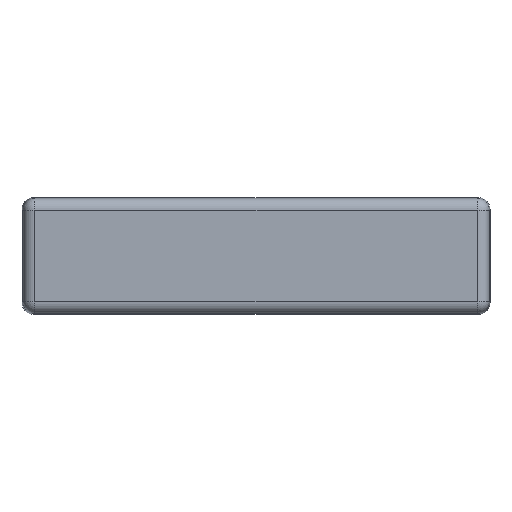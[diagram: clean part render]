
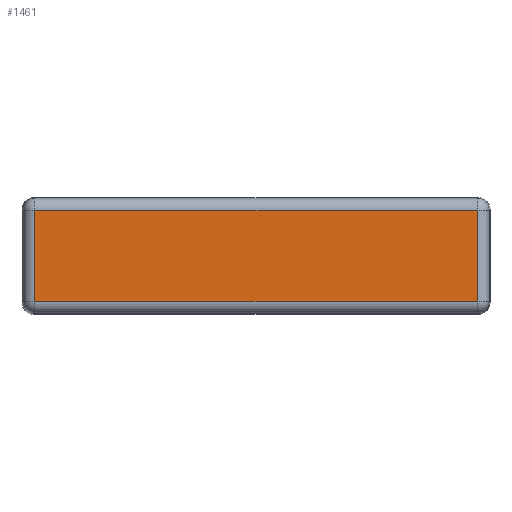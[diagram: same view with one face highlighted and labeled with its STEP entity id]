
A CAD part, top view. The second image highlights one B-rep face of the part: STEP entity #1461.
In plain terms, the highlighted planar face has unit normal (0, 0, 1).
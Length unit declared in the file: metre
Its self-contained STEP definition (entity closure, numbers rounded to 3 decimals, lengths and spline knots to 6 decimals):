
#353=FACE_OUTER_BOUND('',#480,.T.);
#480=EDGE_LOOP('',(#1096,#1097,#1098,#1099));
#670=LINE('',#2522,#732);
#671=LINE('',#2524,#733);
#672=LINE('',#2526,#734);
#673=LINE('',#2527,#735);
#732=VECTOR('',#1927,0.056754);
#733=VECTOR('',#1928,0.011754);
#734=VECTOR('',#1929,0.056754);
#735=VECTOR('',#1930,0.011754);
#798=VERTEX_POINT('',#2520);
#799=VERTEX_POINT('',#2521);
#800=VERTEX_POINT('',#2523);
#801=VERTEX_POINT('',#2525);
#924=EDGE_CURVE('',#798,#799,#670,.F.);
#925=EDGE_CURVE('',#799,#800,#671,.F.);
#926=EDGE_CURVE('',#800,#801,#672,.F.);
#927=EDGE_CURVE('',#801,#798,#673,.F.);
#1096=ORIENTED_EDGE('',*,*,#924,.T.);
#1097=ORIENTED_EDGE('',*,*,#925,.T.);
#1098=ORIENTED_EDGE('',*,*,#926,.T.);
#1099=ORIENTED_EDGE('',*,*,#927,.T.);
#1405=PLANE('',#1630);
#1461=ADVANCED_FACE('',(#353),#1405,.F.);
#1630=AXIS2_PLACEMENT_3D('',#2519,#1925,#1926);
#1925=DIRECTION('center_axis',(0.,0.,-1.));
#1926=DIRECTION('ref_axis',(-1.,0.,0.));
#1927=DIRECTION('',(-1.,0.,0.));
#1928=DIRECTION('',(0.,-1.,0.));
#1929=DIRECTION('',(1.,0.,0.));
#1930=DIRECTION('',(0.,1.,0.));
#2519=CARTESIAN_POINT('Origin',(0.,0.,0.005));
#2520=CARTESIAN_POINT('',(-0.028377,-0.005877,0.005));
#2521=CARTESIAN_POINT('',(0.028377,-0.005877,0.005));
#2522=CARTESIAN_POINT('',(0.028377,-0.005877,0.005));
#2523=CARTESIAN_POINT('',(0.028377,0.005877,0.005));
#2524=CARTESIAN_POINT('',(0.028377,0.005877,0.005));
#2525=CARTESIAN_POINT('',(-0.028377,0.005877,0.005));
#2526=CARTESIAN_POINT('',(-0.028377,0.005877,0.005));
#2527=CARTESIAN_POINT('',(-0.028377,-0.005877,0.005));
